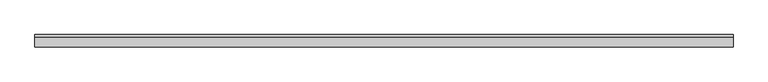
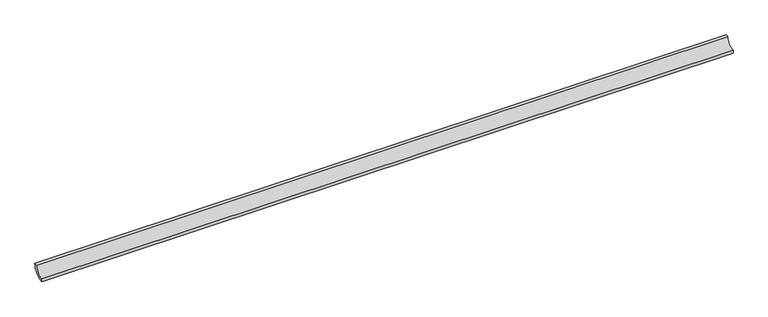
"""IFC4 building model written with IfcOpenShell, lengths in millimetres: proxy geometry, EXAGRES - Piscina Mediacaña1 : Publica_Azul_24.5x4cm."""

import ifcopenshell
import ifcopenshell.guid

model = None  # the IFC model being written
_history = None  # IfcOwnerHistory: only IFC2X3 demands one
_inside = {}  # id of a spatial element -> (the spatial element, [elements in it])
_under = {}  # id of a project, library or spatial element -> (it, [spatial elements below it])
_declared = {}  # id of a project -> (the project, [libraries it declares])
_typed = {}  # id of a type object -> (the type object, [elements of that type])
_made_of = {}  # id of a material, layer set ... -> (it, [elements and type objects made of it])


def new_model(schema):
    """Start an empty IFC model of exactly this schema.

    Asked for "IFC4X3", IfcOpenShell would pick the latest addendum, in which some entities
    have other attributes; the version numbers below select the first issue.
    IFC2X3 requires an IfcOwnerHistory on every rooted entity: one is made here for all.
    """
    global model, _history
    if schema == "IFC4X3":
        model = ifcopenshell.file(schema_version=(4, 3, 0, 0))
    else:
        model = ifcopenshell.file(schema=schema)
    _inside.clear()
    _under.clear()
    _declared.clear()
    _typed.clear()
    _made_of.clear()
    _history = None
    if model.schema == "IFC2X3":
        org = make("IfcOrganization", Name="unknown")
        user = make(
            "IfcPersonAndOrganization",
            ThePerson=make("IfcPerson", FamilyName="unknown"),
            TheOrganization=org,
        )
        app = make(
            "IfcApplication",
            ApplicationDeveloper=org,
            Version="unknown",
            ApplicationFullName="unknown",
            ApplicationIdentifier="unknown",
        )
        _history = make(
            "IfcOwnerHistory",
            OwningUser=user,
            OwningApplication=app,
            ChangeAction="ADDED",
            CreationDate=0,
        )
    return model


def make(cls, **values):
    """One entity of the class cls with the attributes given. An attribute that is None is left unset."""
    return model.create_entity(
        cls, **{name: value for name, value in values.items() if value is not None}
    )


def rooted(cls, **values):
    """An entity with a GlobalId (a new one), such as an element, a storey or a relation."""
    return make(cls, GlobalId=ifcopenshell.guid.new(), OwnerHistory=_history, **values)


def si_unit(unit_type, name, prefix=None):
    """IfcSIUnit, for example si_unit("LENGTHUNIT", "METRE", prefix="MILLI")."""
    return make("IfcSIUnit", UnitType=unit_type, Prefix=prefix, Name=name)


def assignment(units):
    """IfcUnitAssignment: the units of a project."""
    return None if units is None else make("IfcUnitAssignment", Units=units)


def point(xyz):
    """IfcCartesianPoint."""
    return None if xyz is None else make("IfcCartesianPoint", Coordinates=xyz)


def direction(xyz):
    """IfcDirection."""
    return None if xyz is None else make("IfcDirection", DirectionRatios=xyz)


def frame(location, z_axis=None, x_axis=None):
    """IfcAxis2Placement3D, a coordinate frame: its origin and axes. An axis left out is left unset."""
    return make(
        "IfcAxis2Placement3D",
        Location=point(location),
        Axis=direction(z_axis),
        RefDirection=direction(x_axis),
    )


def frame_2d(location, x_axis=None):
    """IfcAxis2Placement2D, a coordinate frame in the plane: its origin and x axis."""
    return make(
        "IfcAxis2Placement2D", Location=point(location), RefDirection=direction(x_axis)
    )


def origin():
    """The frame at (0, 0, 0) with its axes left unset."""
    return frame((0.0, 0.0, 0.0))


def place(relative_to, where):
    """IfcLocalPlacement: puts the frame where relative to a parent placement (None: the world)."""
    return make(
        "IfcLocalPlacement", PlacementRelTo=relative_to, RelativePlacement=where
    )


def context(
    kind, dimensions, precision=None, world=None, true_north=None, identifier=None
):
    """IfcGeometricRepresentationContext, for example the 3D "Model" context."""
    return make(
        "IfcGeometricRepresentationContext",
        ContextIdentifier=identifier,
        ContextType=kind,
        CoordinateSpaceDimension=dimensions,
        Precision=precision,
        WorldCoordinateSystem=world,
        TrueNorth=true_north,
    )


def project(units=None, contexts=None):
    """IfcProject with its units and contexts."""
    return rooted(
        "IfcProject",
        Name="project",
        RepresentationContexts=contexts,
        UnitsInContext=assignment(units),
    )


def spatial(cls, under=None, at=None, **own):
    """A site, building, storey or space (cls), placed at a placement, below another one or the project."""
    s = rooted(cls, ObjectPlacement=at, **own)
    if under is not None:
        _under.setdefault(under.id(), (under, []))[1].append(s)
    return s


def polyline(points):
    """IfcPolyline through the points."""
    return make("IfcPolyline", Points=[point(p) for p in points])


def circle_curve(where, radius):
    """IfcCircle in the frame where."""
    return make("IfcCircle", Position=where, Radius=radius)


def trimmed(basis, trim1, trim2, sense, master):
    """IfcTrimmedCurve: the piece of a basis curve between two trims."""
    return make(
        "IfcTrimmedCurve",
        BasisCurve=basis,
        Trim1=trim1,
        Trim2=trim2,
        SenseAgreement=sense,
        MasterRepresentation=master,
    )


def segment(curve, same_sense, transition):
    """IfcCompositeCurveSegment."""
    return make(
        "IfcCompositeCurveSegment",
        Transition=transition,
        SameSense=same_sense,
        ParentCurve=curve,
    )


def composite_curve(segments, self_intersect=None):
    """IfcCompositeCurve: segments joined end to end."""
    return make("IfcCompositeCurve", Segments=segments, SelfIntersect=self_intersect)


def outline(outer, holes=None, kind="AREA"):
    """IfcArbitraryClosedProfileDef: a profile drawn as a closed curve; with holes, ...WithVoids."""
    if holes is None:
        return make("IfcArbitraryClosedProfileDef", ProfileType=kind, OuterCurve=outer)
    return make(
        "IfcArbitraryProfileDefWithVoids",
        ProfileType=kind,
        OuterCurve=outer,
        InnerCurves=holes,
    )


def extrude(swept, where, along, depth):
    """IfcExtrudedAreaSolid: the profile swept, set in the frame where, extruded along a direction by depth."""
    return make(
        "IfcExtrudedAreaSolid",
        SweptArea=swept,
        Position=where,
        ExtrudedDirection=direction(along),
        Depth=depth,
    )


def shape(context_of_items, identifier, shape_type, items):
    """IfcShapeRepresentation: the items that make up one representation, for example the "Body"."""
    return make(
        "IfcShapeRepresentation",
        ContextOfItems=context_of_items,
        RepresentationIdentifier=identifier,
        RepresentationType=shape_type,
        Items=items,
    )


def source(mapping_origin, context_of_items, identifier, shape_type, items):
    """IfcRepresentationMap: a shape defined once, which mapped items show again and again."""
    return make(
        "IfcRepresentationMap",
        MappingOrigin=mapping_origin,
        MappedRepresentation=shape(context_of_items, identifier, shape_type, items),
    )


def transform(
    local_origin,
    x_axis=None,
    y_axis=None,
    z_axis=None,
    scale=None,
    scale2=None,
    scale3=None,
    uniform=True,
):
    """IfcCartesianTransformationOperator3D, or its non-uniform kind. x_axis, y_axis, z_axis: its Axis1, 2, 3."""
    if uniform:
        return make(
            "IfcCartesianTransformationOperator3D",
            Axis1=direction(x_axis),
            Axis2=direction(y_axis),
            LocalOrigin=point(local_origin),
            Scale=scale,
            Axis3=direction(z_axis),
        )
    return make(
        "IfcCartesianTransformationOperator3DnonUniform",
        Axis1=direction(x_axis),
        Axis2=direction(y_axis),
        LocalOrigin=point(local_origin),
        Scale=scale,
        Axis3=direction(z_axis),
        Scale2=scale2,
        Scale3=scale3,
    )


def mapped(mapping_source, mapping_target):
    """IfcMappedItem: shows the shape of a source again, moved by a transform."""
    return make(
        "IfcMappedItem", MappingSource=mapping_source, MappingTarget=mapping_target
    )


def made_of(thing, what):
    """Note that an element or type object is made of a material, layer set ...; save() writes the relation."""
    if what is not None:
        _made_of.setdefault(what.id(), (what, []))[1].append(thing)
    return thing


def element(
    cls,
    number,
    at=None,
    inside=None,
    cuts=None,
    type_object=None,
    material=None,
    context=None,
    identifier="Body",
    shape_type=None,
    held_by="IfcProductDefinitionShape",
    body=None,
    shapes=None,
    **own,
):
    """One element of the class cls, such as IfcWall. Its Tag is "e" and its number.

    at: its placement. inside: the storey or other place that contains it. cuts: it is an
    opening in that element (IfcRelVoidsElement). A single representation is given by context,
    identifier, shape_type and body (its items); several are given by shapes. held_by: the class
    of the entity that holds the representations. save() writes the other relations.
    """
    e = rooted(cls, Tag="e%d" % number, ObjectPlacement=at, **own)
    if body is not None:
        shapes = [shape(context, identifier, shape_type, body)]
    if shapes is not None:
        e.Representation = make(held_by, Representations=shapes)
    if inside is not None:
        _inside.setdefault(inside.id(), (inside, []))[1].append(e)
    if cuts is not None:
        rooted(
            "IfcRelVoidsElement", RelatingBuildingElement=cuts, RelatedOpeningElement=e
        )
    if type_object is not None:
        _typed.setdefault(type_object.id(), (type_object, []))[1].append(e)
    return made_of(e, material)


def aggregate(whole, parts):
    """IfcRelAggregates: a whole, such as a stair, and the parts it consists of."""
    return rooted("IfcRelAggregates", RelatingObject=whole, RelatedObjects=parts)


def save(model, path):
    """Write the relations noted so far, then the file.

    IfcRelAggregates (storeys below a building ...), IfcRelContainedInSpatialStructure (elements
    in a storey), IfcRelDefinesByType, IfcRelAssociatesMaterial and IfcRelDeclares: one each for
    every whole, place, type object, material and project.
    """
    for whole, parts in _under.values():
        aggregate(whole, parts)
    for where, things in _inside.values():
        rooted(
            "IfcRelContainedInSpatialStructure",
            RelatedElements=things,
            RelatingStructure=where,
        )
    for kind, things in _typed.values():
        rooted("IfcRelDefinesByType", RelatedObjects=things, RelatingType=kind)
    for what, things in _made_of.values():
        rooted("IfcRelAssociatesMaterial", RelatedObjects=things, RelatingMaterial=what)
    for by, libraries in _declared.values():
        rooted("IfcRelDeclares", RelatingContext=by, RelatedDefinitions=libraries)
    model.write(path)


def generic_models_eecde402(model_context):
    return source(origin(), model_context, "Body", "SweptSolid", [
        extrude(outline(composite_curve([segment(trimmed(circle_curve(frame_2d((-26.0, 26.0)), 26.0), [point((-26.0, 0.0))], [point((0.0, 26.0))], True, "CARTESIAN"), True, "CONTINUOUS"), segment(polyline([(0.0, 26.0), (8.5, 26.0)]), True, "CONTINUOUS"), segment(trimmed(circle_curve(frame_2d((-26.0, 26.0)), 34.5), [point((8.5, 26.0))], [point((-26.0, -8.5))], False, "CARTESIAN"), True, "CONTINUOUS"), segment(polyline([(-26.0, -8.5), (-26.0, 0.0)]), True, "CONTINUOUS")], self_intersect=False)), frame((0.0, 0.0, 0.0), z_axis=(1.0, 0.0, 0.0), x_axis=(0.0, 1.0, 0.0)), (0.0, 0.0, 1.0), 1975.0),
    ])


if __name__ == "__main__":
    model = new_model("IFC4")
    model_context = context("Model", 3, world=origin())
    ifc_project = project(units=[si_unit("LENGTHUNIT", "METRE", prefix="MILLI")], contexts=[model_context])
    site = spatial("IfcSite", under=ifc_project)
    building = spatial("IfcBuilding", under=site)
    placement = place(None, origin())
    generic_models_shape = generic_models_eecde402(model_context)
    element("IfcBuildingElementProxy", 1, Name="EXAGRES - Piscina Mediacaña1 : Publica_Azul_24.5x4cm", ObjectType="EXAGRES - Piscina Mediacaña1 : Publica_Azul_24.5x4cm", at=placement, inside=building, context=model_context, shape_type="MappedRepresentation", body=[
        mapped(generic_models_shape, transform((0.0, 0.0, 0.0), x_axis=(1.0, 0.0, 0.0), y_axis=(0.0, 1.0, 0.0), z_axis=(0.0, 0.0, 1.0))),
    ])
    save(model, "model.ifc")
